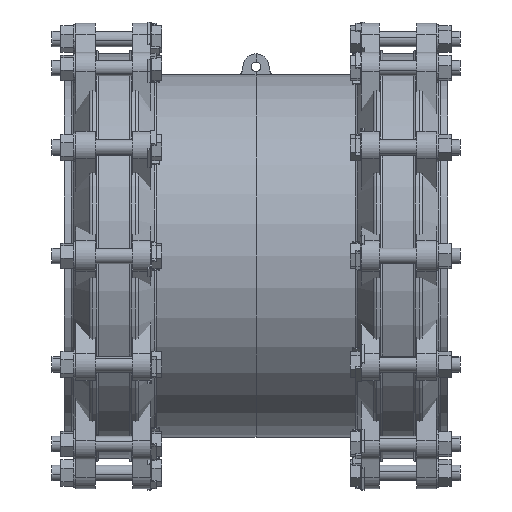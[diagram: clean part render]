
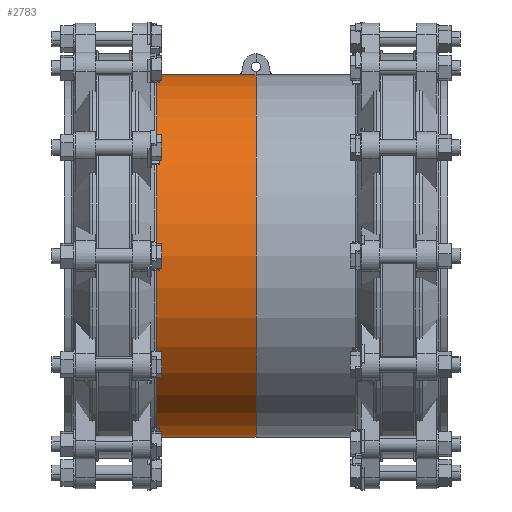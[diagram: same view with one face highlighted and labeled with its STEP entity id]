
A CAD part, front view. The second image highlights one B-rep face of the part: STEP entity #2783.
In plain terms, the highlighted cylindrical face has radius 232.5 mm (diameter 465 mm), a partial arc.
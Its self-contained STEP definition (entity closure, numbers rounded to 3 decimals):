
#2783=ADVANCED_FACE('',(#6277),#6278,.T.);
#6277=FACE_OUTER_BOUND('',#11335,.T.);
#6278=CYLINDRICAL_SURFACE('',#11336,232.5);
#11335=EDGE_LOOP('',(#16500,#16501,#16502,#16503,#16504));
#11336=AXIS2_PLACEMENT_3D('',#16505,#16506,#16507);
#16500=ORIENTED_EDGE('',*,*,#28314,.F.);
#16501=ORIENTED_EDGE('',*,*,#28231,.T.);
#16502=ORIENTED_EDGE('',*,*,#28315,.T.);
#16503=ORIENTED_EDGE('',*,*,#28316,.F.);
#16504=ORIENTED_EDGE('',*,*,#28317,.F.);
#16505=CARTESIAN_POINT('',(790.829,-980.309,782.721));
#16506=DIRECTION('',(1.0,0.,0.));
#16507=DIRECTION('',(0.,0.,1.0));
#28231=EDGE_CURVE('',#33506,#33504,#33507,.T.);
#28314=EDGE_CURVE('',#33506,#33649,#33650,.T.);
#28315=EDGE_CURVE('',#33504,#33651,#33652,.T.);
#28316=EDGE_CURVE('',#33653,#33651,#33654,.T.);
#28317=EDGE_CURVE('',#33649,#33653,#33655,.T.);
#33504=VERTEX_POINT('',#40869);
#33506=VERTEX_POINT('',#40871);
#33507=CIRCLE('',#40872,232.5);
#33649=VERTEX_POINT('',#41056);
#33650=LINE('',#41057,#41058);
#33651=VERTEX_POINT('',#41059);
#33652=CIRCLE('',#41060,232.5);
#33653=VERTEX_POINT('',#41061);
#33654=LINE('',#41062,#41063);
#33655=CIRCLE('',#41064,232.5);
#40869=CARTESIAN_POINT('',(727.14,-1212.809,782.721));
#40871=CARTESIAN_POINT('',(727.14,-980.309,1015.221));
#40872=AXIS2_PLACEMENT_3D('',#49481,#49482,#49483);
#41056=CARTESIAN_POINT('',(854.519,-980.309,1015.221));
#41057=CARTESIAN_POINT('',(790.829,-980.309,1015.221));
#41058=VECTOR('',#49595,1.0);
#41059=CARTESIAN_POINT('',(727.14,-980.309,550.221));
#41060=AXIS2_PLACEMENT_3D('',#49596,#49597,#49598);
#41061=CARTESIAN_POINT('',(854.519,-980.309,550.221));
#41062=CARTESIAN_POINT('',(790.829,-980.309,550.221));
#41063=VECTOR('',#49599,1.0);
#41064=AXIS2_PLACEMENT_3D('',#49600,#49601,#49602);
#49481=CARTESIAN_POINT('',(727.14,-980.309,782.721));
#49482=DIRECTION('',(1.0,0.,0.));
#49483=DIRECTION('',(0.,0.,1.0));
#49595=DIRECTION('',(1.0,0.,0.));
#49596=CARTESIAN_POINT('',(727.14,-980.309,782.721));
#49597=DIRECTION('',(1.0,0.,0.));
#49598=DIRECTION('',(0.,0.,1.0));
#49599=DIRECTION('',(-1.0,0.,0.));
#49600=CARTESIAN_POINT('',(854.519,-980.309,782.721));
#49601=DIRECTION('',(1.0,0.,0.));
#49602=DIRECTION('',(0.,0.,1.0));
